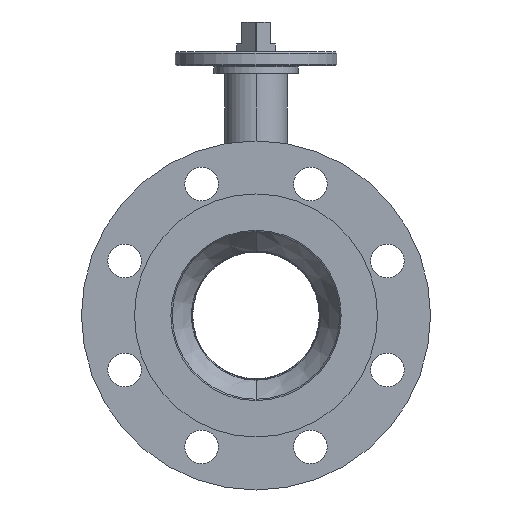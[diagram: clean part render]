
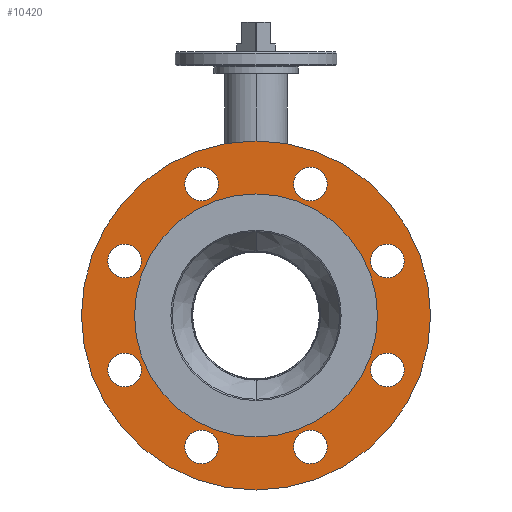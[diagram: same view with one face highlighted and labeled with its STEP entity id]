
A CAD part, left-side view. The second image highlights one B-rep face of the part: STEP entity #10420.
In plain terms, the highlighted planar face has unit normal (-1, 0, 0).
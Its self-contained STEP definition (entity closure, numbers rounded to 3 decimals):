
#893=CARTESIAN_POINT('',(-160.5,0.,0.));
#894=DIRECTION('',(1.,0.,0.));
#895=DIRECTION('',(0.,0.,-1.));
#896=AXIS2_PLACEMENT_3D('',#893,#894,#895);
#902=CARTESIAN_POINT('',(-160.5,0.,0.));
#903=DIRECTION('',(-1.,0.,0.));
#904=DIRECTION('',(0.,0.,-1.));
#905=AXIS2_PLACEMENT_3D('',#902,#903,#904);
#911=CARTESIAN_POINT('',(-160.5,0.,0.));
#912=DIRECTION('',(-1.,0.,0.));
#913=DIRECTION('',(0.,0.,-1.));
#914=AXIS2_PLACEMENT_3D('',#911,#912,#913);
#916=CARTESIAN_POINT('',(-160.5,0.,0.));
#917=DIRECTION('',(-1.,0.,0.));
#918=DIRECTION('',(0.,0.,1.));
#919=AXIS2_PLACEMENT_3D('',#916,#917,#918);
#921=CARTESIAN_POINT('',(-160.5,-42.095,101.627));
#922=DIRECTION('',(-1.,0.,0.));
#923=DIRECTION('',(0.,1.,0.));
#924=AXIS2_PLACEMENT_3D('',#921,#922,#923);
#926=CARTESIAN_POINT('',(-160.5,-42.095,101.627));
#927=DIRECTION('',(-1.,0.,0.));
#928=DIRECTION('',(0.,-1.,0.));
#929=AXIS2_PLACEMENT_3D('',#926,#927,#928);
#931=CARTESIAN_POINT('',(-160.5,-101.627,42.095));
#932=DIRECTION('',(-1.,0.,0.));
#933=DIRECTION('',(0.,1.,0.));
#934=AXIS2_PLACEMENT_3D('',#931,#932,#933);
#936=CARTESIAN_POINT('',(-160.5,-101.627,42.095));
#937=DIRECTION('',(-1.,0.,0.));
#938=DIRECTION('',(0.,-1.,0.));
#939=AXIS2_PLACEMENT_3D('',#936,#937,#938);
#941=CARTESIAN_POINT('',(-160.5,-101.627,-42.095));
#942=DIRECTION('',(-1.,0.,0.));
#943=DIRECTION('',(0.,1.,0.));
#944=AXIS2_PLACEMENT_3D('',#941,#942,#943);
#946=CARTESIAN_POINT('',(-160.5,-101.627,-42.095));
#947=DIRECTION('',(-1.,0.,0.));
#948=DIRECTION('',(0.,-1.,0.));
#949=AXIS2_PLACEMENT_3D('',#946,#947,#948);
#951=CARTESIAN_POINT('',(-160.5,-42.095,-101.627));
#952=DIRECTION('',(-1.,0.,0.));
#953=DIRECTION('',(0.,1.,0.));
#954=AXIS2_PLACEMENT_3D('',#951,#952,#953);
#956=CARTESIAN_POINT('',(-160.5,-42.095,-101.627));
#957=DIRECTION('',(-1.,0.,0.));
#958=DIRECTION('',(0.,-1.,0.));
#959=AXIS2_PLACEMENT_3D('',#956,#957,#958);
#961=CARTESIAN_POINT('',(-160.5,42.095,-101.627));
#962=DIRECTION('',(-1.,0.,0.));
#963=DIRECTION('',(0.,1.,0.));
#964=AXIS2_PLACEMENT_3D('',#961,#962,#963);
#966=CARTESIAN_POINT('',(-160.5,42.095,-101.627));
#967=DIRECTION('',(-1.,0.,0.));
#968=DIRECTION('',(0.,-1.,0.));
#969=AXIS2_PLACEMENT_3D('',#966,#967,#968);
#971=CARTESIAN_POINT('',(-160.5,101.627,-42.095));
#972=DIRECTION('',(-1.,0.,0.));
#973=DIRECTION('',(0.,1.,0.));
#974=AXIS2_PLACEMENT_3D('',#971,#972,#973);
#976=CARTESIAN_POINT('',(-160.5,101.627,-42.095));
#977=DIRECTION('',(-1.,0.,0.));
#978=DIRECTION('',(0.,-1.,0.));
#979=AXIS2_PLACEMENT_3D('',#976,#977,#978);
#981=CARTESIAN_POINT('',(-160.5,101.627,42.095));
#982=DIRECTION('',(-1.,0.,0.));
#983=DIRECTION('',(0.,1.,0.));
#984=AXIS2_PLACEMENT_3D('',#981,#982,#983);
#986=CARTESIAN_POINT('',(-160.5,101.627,42.095));
#987=DIRECTION('',(-1.,0.,0.));
#988=DIRECTION('',(0.,-1.,0.));
#989=AXIS2_PLACEMENT_3D('',#986,#987,#988);
#991=CARTESIAN_POINT('',(-160.5,42.095,101.627));
#992=DIRECTION('',(-1.,0.,0.));
#993=DIRECTION('',(0.,1.,0.));
#994=AXIS2_PLACEMENT_3D('',#991,#992,#993);
#996=CARTESIAN_POINT('',(-160.5,42.095,101.627));
#997=DIRECTION('',(-1.,0.,0.));
#998=DIRECTION('',(0.,-1.,0.));
#999=AXIS2_PLACEMENT_3D('',#996,#997,#998);
#8508=CARTESIAN_POINT('',(-160.5,0.,-94.));
#8509=CARTESIAN_POINT('',(-160.5,0.,94.));
#8510=VERTEX_POINT('',#8508);
#8511=VERTEX_POINT('',#8509);
#8512=CARTESIAN_POINT('',(-160.5,0.,-135.));
#8513=CARTESIAN_POINT('',(-160.5,0.,135.));
#8514=VERTEX_POINT('',#8512);
#8515=VERTEX_POINT('',#8513);
#8520=CARTESIAN_POINT('',(-160.5,-29.095,101.627));
#8521=CARTESIAN_POINT('',(-160.5,-55.095,101.627));
#8522=VERTEX_POINT('',#8520);
#8523=VERTEX_POINT('',#8521);
#8524=CARTESIAN_POINT('',(-160.5,-88.627,42.095));
#8525=CARTESIAN_POINT('',(-160.5,-114.627,42.095));
#8526=VERTEX_POINT('',#8524);
#8527=VERTEX_POINT('',#8525);
#8528=CARTESIAN_POINT('',(-160.5,-88.627,-42.095));
#8529=CARTESIAN_POINT('',(-160.5,-114.627,-42.095));
#8530=VERTEX_POINT('',#8528);
#8531=VERTEX_POINT('',#8529);
#8532=CARTESIAN_POINT('',(-160.5,-29.095,-101.627));
#8533=CARTESIAN_POINT('',(-160.5,-55.095,-101.627));
#8534=VERTEX_POINT('',#8532);
#8535=VERTEX_POINT('',#8533);
#8536=CARTESIAN_POINT('',(-160.5,55.095,-101.627));
#8537=CARTESIAN_POINT('',(-160.5,29.095,-101.627));
#8538=VERTEX_POINT('',#8536);
#8539=VERTEX_POINT('',#8537);
#8540=CARTESIAN_POINT('',(-160.5,114.627,-42.095));
#8541=CARTESIAN_POINT('',(-160.5,88.627,-42.095));
#8542=VERTEX_POINT('',#8540);
#8543=VERTEX_POINT('',#8541);
#8544=CARTESIAN_POINT('',(-160.5,114.627,42.095));
#8545=CARTESIAN_POINT('',(-160.5,88.627,42.095));
#8546=VERTEX_POINT('',#8544);
#8547=VERTEX_POINT('',#8545);
#8548=CARTESIAN_POINT('',(-160.5,55.095,101.627));
#8549=CARTESIAN_POINT('',(-160.5,29.095,101.627));
#8550=VERTEX_POINT('',#8548);
#8551=VERTEX_POINT('',#8549);
#10357=CARTESIAN_POINT('',(-160.5,0.,0.));
#10358=DIRECTION('',(1.,0.,0.));
#10359=DIRECTION('',(0.,0.,-1.));
#10360=AXIS2_PLACEMENT_3D('',#10357,#10358,#10359);
#10361=PLANE('',#10360);
#10363=ORIENTED_EDGE('',*,*,#10362,.F.);
#10365=ORIENTED_EDGE('',*,*,#10364,.F.);
#10366=EDGE_LOOP('',(#10363,#10365));
#10367=FACE_OUTER_BOUND('',#10366,.F.);
#10368=ORIENTED_EDGE('',*,*,#10351,.T.);
#10369=ORIENTED_EDGE('',*,*,#10337,.F.);
#10370=EDGE_LOOP('',(#10368,#10369));
#10371=FACE_BOUND('',#10370,.F.);
#10373=ORIENTED_EDGE('',*,*,#10372,.T.);
#10375=ORIENTED_EDGE('',*,*,#10374,.T.);
#10376=EDGE_LOOP('',(#10373,#10375));
#10377=FACE_BOUND('',#10376,.F.);
#10379=ORIENTED_EDGE('',*,*,#10378,.T.);
#10381=ORIENTED_EDGE('',*,*,#10380,.T.);
#10382=EDGE_LOOP('',(#10379,#10381));
#10383=FACE_BOUND('',#10382,.F.);
#10385=ORIENTED_EDGE('',*,*,#10384,.T.);
#10387=ORIENTED_EDGE('',*,*,#10386,.T.);
#10388=EDGE_LOOP('',(#10385,#10387));
#10389=FACE_BOUND('',#10388,.F.);
#10391=ORIENTED_EDGE('',*,*,#10390,.T.);
#10393=ORIENTED_EDGE('',*,*,#10392,.T.);
#10394=EDGE_LOOP('',(#10391,#10393));
#10395=FACE_BOUND('',#10394,.F.);
#10397=ORIENTED_EDGE('',*,*,#10396,.T.);
#10399=ORIENTED_EDGE('',*,*,#10398,.T.);
#10400=EDGE_LOOP('',(#10397,#10399));
#10401=FACE_BOUND('',#10400,.F.);
#10403=ORIENTED_EDGE('',*,*,#10402,.T.);
#10405=ORIENTED_EDGE('',*,*,#10404,.T.);
#10406=EDGE_LOOP('',(#10403,#10405));
#10407=FACE_BOUND('',#10406,.F.);
#10409=ORIENTED_EDGE('',*,*,#10408,.T.);
#10411=ORIENTED_EDGE('',*,*,#10410,.T.);
#10412=EDGE_LOOP('',(#10409,#10411));
#10413=FACE_BOUND('',#10412,.F.);
#10415=ORIENTED_EDGE('',*,*,#10414,.T.);
#10417=ORIENTED_EDGE('',*,*,#10416,.T.);
#10418=EDGE_LOOP('',(#10415,#10417));
#10419=FACE_BOUND('',#10418,.F.);
#10420=ADVANCED_FACE('',(#10367,#10371,#10377,#10383,#10389,#10395,#10401,
#10407,#10413,#10419),#10361,.F.);
#897=CIRCLE('',#896,94.);
#906=CIRCLE('',#905,94.);
#915=CIRCLE('',#914,135.);
#920=CIRCLE('',#919,135.);
#925=CIRCLE('',#924,13.);
#930=CIRCLE('',#929,13.);
#935=CIRCLE('',#934,13.);
#940=CIRCLE('',#939,13.);
#945=CIRCLE('',#944,13.);
#950=CIRCLE('',#949,13.);
#955=CIRCLE('',#954,13.);
#960=CIRCLE('',#959,13.);
#965=CIRCLE('',#964,13.);
#970=CIRCLE('',#969,13.);
#975=CIRCLE('',#974,13.);
#980=CIRCLE('',#979,13.);
#985=CIRCLE('',#984,13.);
#990=CIRCLE('',#989,13.);
#995=CIRCLE('',#994,13.);
#1000=CIRCLE('',#999,13.);
#10337=EDGE_CURVE('',#8510,#8511,#897,.T.);
#10351=EDGE_CURVE('',#8510,#8511,#906,.T.);
#10362=EDGE_CURVE('',#8514,#8515,#915,.T.);
#10364=EDGE_CURVE('',#8515,#8514,#920,.T.);
#10372=EDGE_CURVE('',#8522,#8523,#925,.T.);
#10374=EDGE_CURVE('',#8523,#8522,#930,.T.);
#10378=EDGE_CURVE('',#8526,#8527,#935,.T.);
#10380=EDGE_CURVE('',#8527,#8526,#940,.T.);
#10384=EDGE_CURVE('',#8530,#8531,#945,.T.);
#10386=EDGE_CURVE('',#8531,#8530,#950,.T.);
#10390=EDGE_CURVE('',#8534,#8535,#955,.T.);
#10392=EDGE_CURVE('',#8535,#8534,#960,.T.);
#10396=EDGE_CURVE('',#8538,#8539,#965,.T.);
#10398=EDGE_CURVE('',#8539,#8538,#970,.T.);
#10402=EDGE_CURVE('',#8542,#8543,#975,.T.);
#10404=EDGE_CURVE('',#8543,#8542,#980,.T.);
#10408=EDGE_CURVE('',#8546,#8547,#985,.T.);
#10410=EDGE_CURVE('',#8547,#8546,#990,.T.);
#10414=EDGE_CURVE('',#8550,#8551,#995,.T.);
#10416=EDGE_CURVE('',#8551,#8550,#1000,.T.);
